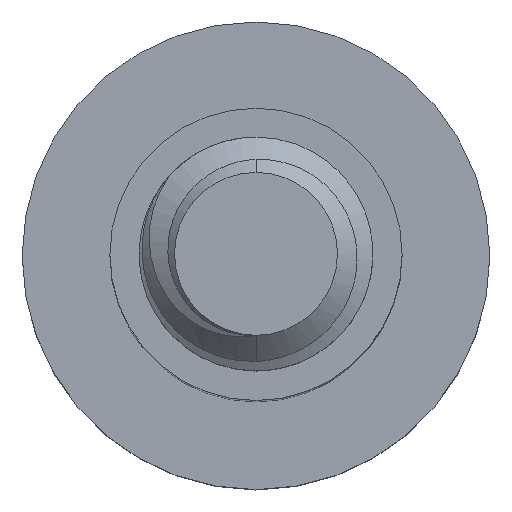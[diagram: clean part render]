
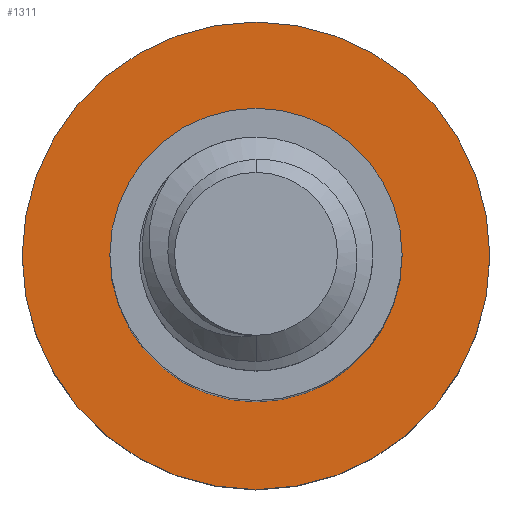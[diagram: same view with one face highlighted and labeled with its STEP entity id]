
A CAD part, top view. The second image highlights one B-rep face of the part: STEP entity #1311.
In plain terms, the highlighted planar face has unit normal (0, 0, 1).
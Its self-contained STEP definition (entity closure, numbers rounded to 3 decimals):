
#142 = EDGE_CURVE ( 'NONE', #1396, #1847, #870, .T. ) ;
#276 = ORIENTED_EDGE ( 'NONE', *, *, #142, .T. ) ;
#285 = AXIS2_PLACEMENT_3D ( 'NONE', #482, #1960, #970 ) ;
#307 = CARTESIAN_POINT ( 'NONE',  ( -2.5, 0., -14. ) ) ;
#325 = CIRCLE ( 'NONE', #1023, 2.5 ) ;
#336 = DIRECTION ( 'NONE',  ( 0., 0., -1. ) ) ;
#429 = DIRECTION ( 'NONE',  ( 0., 0., -1. ) ) ;
#434 = FACE_OUTER_BOUND ( 'NONE', #1924, .T. ) ;
#482 = CARTESIAN_POINT ( 'NONE',  ( 0., 0., -14. ) ) ;
#545 = ORIENTED_EDGE ( 'NONE', *, *, #1102, .F. ) ;
#634 = EDGE_LOOP ( 'NONE', ( #1080, #276 ) ) ;
#654 = CARTESIAN_POINT ( 'NONE',  ( 0., 0., -14. ) ) ;
#664 = CARTESIAN_POINT ( 'NONE',  ( 0., 0., -14. ) ) ;
#718 = VERTEX_POINT ( 'NONE', #1083 ) ;
#797 = DIRECTION ( 'NONE',  ( -1., 0., 0. ) ) ;
#836 = DIRECTION ( 'NONE',  ( 0., 0., -1. ) ) ;
#870 = CIRCLE ( 'NONE', #1372, 2.5 ) ;
#910 = AXIS2_PLACEMENT_3D ( 'NONE', #1425, #1105, #1115 ) ;
#945 = FACE_BOUND ( 'NONE', #634, .T. ) ;
#963 = CARTESIAN_POINT ( 'NONE',  ( 0., 0., -14. ) ) ;
#970 = DIRECTION ( 'NONE',  ( -1., 0., 0. ) ) ;
#1011 = CARTESIAN_POINT ( 'NONE',  ( 4., 0., -14. ) ) ;
#1023 = AXIS2_PLACEMENT_3D ( 'NONE', #963, #429, #2108 ) ;
#1080 = ORIENTED_EDGE ( 'NONE', *, *, #2105, .T. ) ;
#1083 = CARTESIAN_POINT ( 'NONE',  ( -4., 0., -14. ) ) ;
#1102 = EDGE_CURVE ( 'NONE', #1506, #718, #1482, .T. ) ;
#1105 = DIRECTION ( 'NONE',  ( 0., 0., -1. ) ) ;
#1115 = DIRECTION ( 'NONE',  ( -1., 0., 0. ) ) ;
#1235 = CIRCLE ( 'NONE', #285, 4. ) ;
#1311 = ADVANCED_FACE ( 'NONE', ( #945, #434 ), #2064, .F. ) ;
#1343 = DIRECTION ( 'NONE',  ( -1., 0., 0. ) ) ;
#1372 = AXIS2_PLACEMENT_3D ( 'NONE', #654, #836, #1343 ) ;
#1396 = VERTEX_POINT ( 'NONE', #1471 ) ;
#1425 = CARTESIAN_POINT ( 'NONE',  ( 0., 0., -14. ) ) ;
#1471 = CARTESIAN_POINT ( 'NONE',  ( 2.5, 0., -14. ) ) ;
#1482 = CIRCLE ( 'NONE', #1747, 4. ) ;
#1506 = VERTEX_POINT ( 'NONE', #1011 ) ;
#1736 = ORIENTED_EDGE ( 'NONE', *, *, #1855, .F. ) ;
#1747 = AXIS2_PLACEMENT_3D ( 'NONE', #664, #336, #797 ) ;
#1847 = VERTEX_POINT ( 'NONE', #307 ) ;
#1855 = EDGE_CURVE ( 'NONE', #718, #1506, #1235, .T. ) ;
#1924 = EDGE_LOOP ( 'NONE', ( #545, #1736 ) ) ;
#1960 = DIRECTION ( 'NONE',  ( 0., 0., -1. ) ) ;
#2064 = PLANE ( 'NONE',  #910 ) ;
#2105 = EDGE_CURVE ( 'NONE', #1847, #1396, #325, .T. ) ;
#2108 = DIRECTION ( 'NONE',  ( -1., 0., 0. ) ) ;
